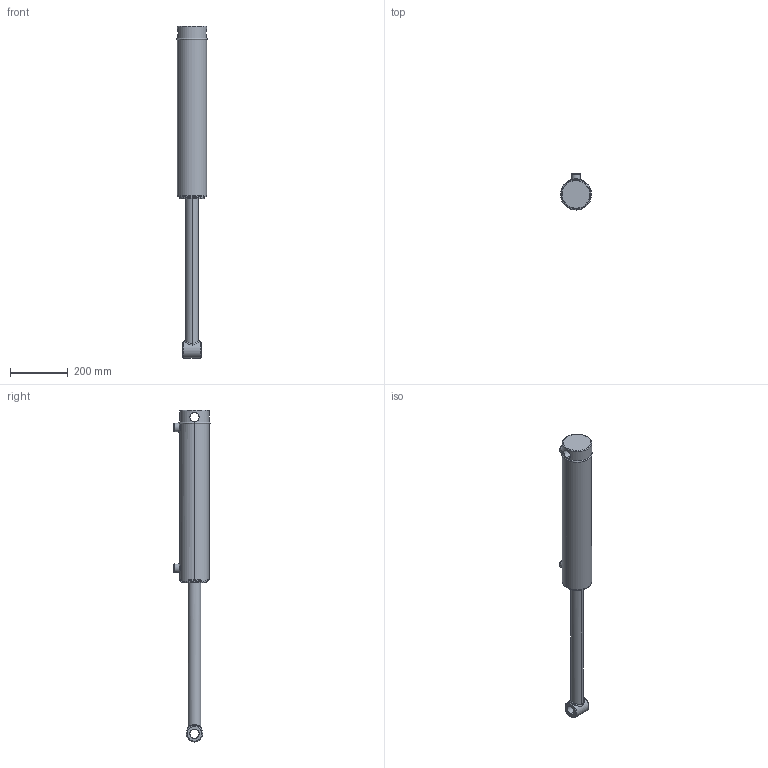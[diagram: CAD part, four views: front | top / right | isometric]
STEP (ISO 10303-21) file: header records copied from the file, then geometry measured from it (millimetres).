
FILE_DESCRIPTION (( 'STEP AP203' ), '1' );
FILE_NAME ('SB-C350175x457 (18) extended.STEP', '2015-03-31T11:47:42', ( '' ), ( '' ), 'SwSTEP 2.0', 'SolidWorks 2015', '' );
FILE_SCHEMA (( 'CONFIG_CONTROL_DESIGN' ));
Length unit declared in the file: millimetre
Products named in the file (6): SB-C350175x457 (18) BODY; 18 spare; spare 18; SB-C350175x457 (18) extended; 3.5 INCH CIRCLIP
Assembly tree (5 placements, depth 3):
  SB-C350175x457 (18) extended
    SB-C350175x457 (18) BODY
      SB-C350175x457 (18) BODY
      3.5 INCH CIRCLIP
    spare 18
      18 spare
Bounding box: 107.6 x 124.6 x 1148.58 mm (x, y, z)
Volume: 5193259.2 mm3; surface area: 375568.5 mm2
Topology: 3 solids, 3 shells, 114 faces, 269 edges, 167 vertices
Faces by surface type: cylinder 49, plane 23, bspline 22, cone 12, torus 8
Entity records: 13049 total; most frequent: CARTESIAN_POINT 9929, ORIENTED_EDGE 530, DIRECTION 518, EDGE_CURVE 265, AXIS2_PLACEMENT_3D 220, VERTEX_POINT 167, EDGE_LOOP 134, CIRCLE 118
